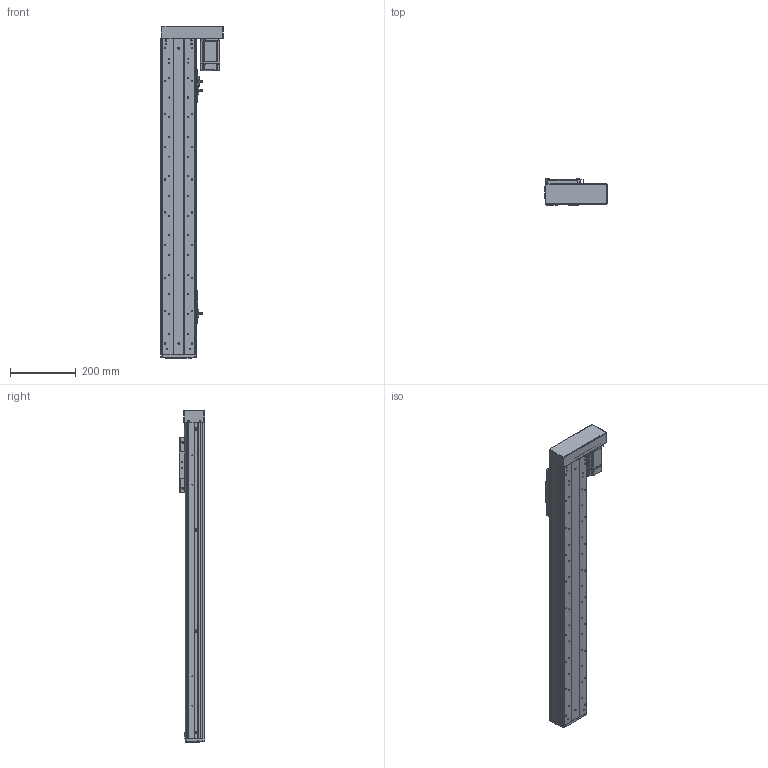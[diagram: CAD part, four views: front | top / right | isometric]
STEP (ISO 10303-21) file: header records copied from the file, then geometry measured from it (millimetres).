
FILE_DESCRIPTION (( 'STEP AP203' ), '1' );
FILE_NAME ('RY100FS-L1620-300-RK(15双轨).SLDASM_700.step', '2021-03-02T07:46:21', ( '盈信电脑' ), ( '东莞市道滘镇水果街19号' ), 'SwSTEP 2.0', 'SolidWorks 2012', '' );
FILE_SCHEMA (( 'CONFIG_CONTROL_DESIGN' ));
Length unit declared in the file: millimetre
Products named in the file (21): RY100FS-L1620-300-RK(15邧寢).SLDASM_700; 蚥薯蝶紫輸; RY100FS-15邧寢蛌殏萇儂欶; RY100FS-15邧寢蛌殏萇儂啣; 1; RY100FS-15邧寢蛌殏萇儂釱; 滅袉蝶14-35; RY100FS-双轨螺母座(16丝杆）; RY100F-詩湍揤踡輸; 覜茼ん672; RY80俋离覜茼え; 672嫖萇羲壽假蚾釱; RY100F-詩湍幗謫粣; RY100F-詩湍揤踡謫; RY100F-綴裔啣; 棠沺沭; RY100FS-300-RK15邧寢祥凄詩湍_700; RY100FS-300-RK15絳寢倰第奻裔啣_700; RY100F-滅鳥裔啣; RY100FS-双轨铝滑块(上板）; RY100FS-300-RK15絳寢倰第菁釱_700
Assembly tree (29 placements, depth 2):
  RY100FS-L1620-300-RK(15邧寢).SLDASM_700
    RY100FS-300-RK15絳寢倰第菁釱_700
    RY100FS-300-RK15絳寢倰第奻裔啣_700  x2
    RY100FS-300-RK15邧寢祥凄詩湍_700
    RY100FS-双轨铝滑块(上板）
    RY100F-滅鳥裔啣
    棠沺沭  x2
    RY100F-詩湍幗謫粣
    RY100F-詩湍揤踡謫  x2
    RY100F-綴裔啣
    672嫖萇羲壽假蚾釱  x2
    RY80俋离覜茼え  x2
    覜茼ん672  x3
    RY100F-詩湍揤踡輸  x2
    RY100FS-双轨螺母座(16丝杆）
    RY100FS-15邧寢蛌殏萇儂釱
    滅袉蝶14-35
    1
    RY100FS-15邧寢蛌殏萇儂啣
    RY100FS-15邧寢蛌殏萇儂欶
    蚥薯蝶紫輸  x2
Bounding box: 189.5 x 78.5 x 1012 mm (x, y, z)
Volume: 2468553.5 mm3; surface area: 1051822.5 mm2
Topology: 29 solids, 29 shells, 2261 faces, 6142 edges, 3966 vertices
Faces by surface type: cylinder 1030, plane 1030, cone 168, bspline 33
Entity records: 65008 total; most frequent: CARTESIAN_POINT 13780, DIRECTION 10211, ORIENTED_EDGE 10092, EDGE_CURVE 5046, AXIS2_PLACEMENT_3D 3616, VERTEX_POINT 3314, VECTOR 2979, LINE 2979
